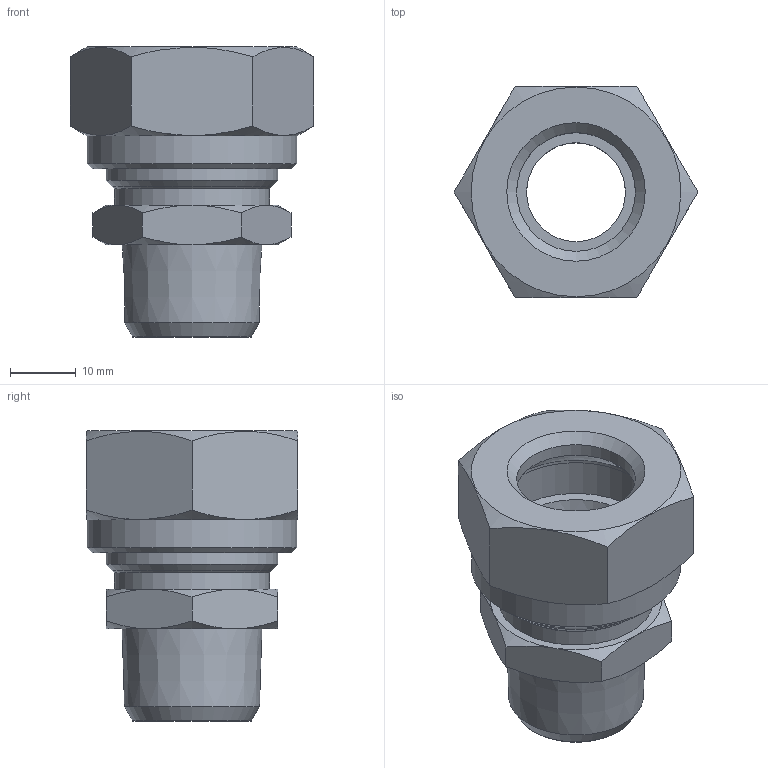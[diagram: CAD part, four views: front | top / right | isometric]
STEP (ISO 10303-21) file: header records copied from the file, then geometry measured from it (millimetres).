
FILE_DESCRIPTION(('Bauteilbeschreibung','HiCAD-Model','HiCAD-STEP-TRANSLATION','Bauteilbeschreibung'),'2;1');
FILE_NAME('B:/ABGLEICH/ZEICHNUNGEN/STEP FÜR INTERNET/STEP/201/94833_201_18_1-2.STP','2011-11-11T08:54:02+00:00',('Konstrukteur'),('Konstrukteur Firma GmbH'),' HiCAD neXt 2008, Step 3.1.1401.2J ','HiCAD neXt 2008','confidential');
FILE_SCHEMA(('AUTOMOTIVE_DESIGN { 1 2 10303 214 0 1 1 1 }'));
Length unit declared in the file: millimetre
Products named in the file (8): A4833_201_18_1_2; A4833; A48330; DIN 13_M26X1_5; R 1_2_14; A6809; A68090; DIN0130M26X105
Assembly tree (7 placements, depth 3):
  A4833_201_18_1_2
    A4833
    A48330
      DIN 13_M26X1_5
      R 1_2_14
    A6809
    A68090
      DIN0130M26X105
Bounding box: 36.95 x 32 x 44 mm (x, y, z)
Volume: 15683 mm3; surface area: 13871.5 mm2
Topology: 5 solids, 5 shells, 63 faces, 138 edges, 85 vertices
Faces by surface type: cone 29, plane 22, cylinder 12
Full cylindrical faces by diameter (mm): 15 x1, 18 x2, 23.5 x1, 24.16 x4, 26 x3, 31.8 x1
Entity records: 2138 total; most frequent: CARTESIAN_POINT 319, DIRECTION 264, ORIENTED_EDGE 194, AXIS2_PLACEMENT_3D 126, COLOUR_RGB 102, EDGE_LOOP 102, PRESENTATION_STYLE_ASSIGNMENT 102, CURVE_STYLE 97
